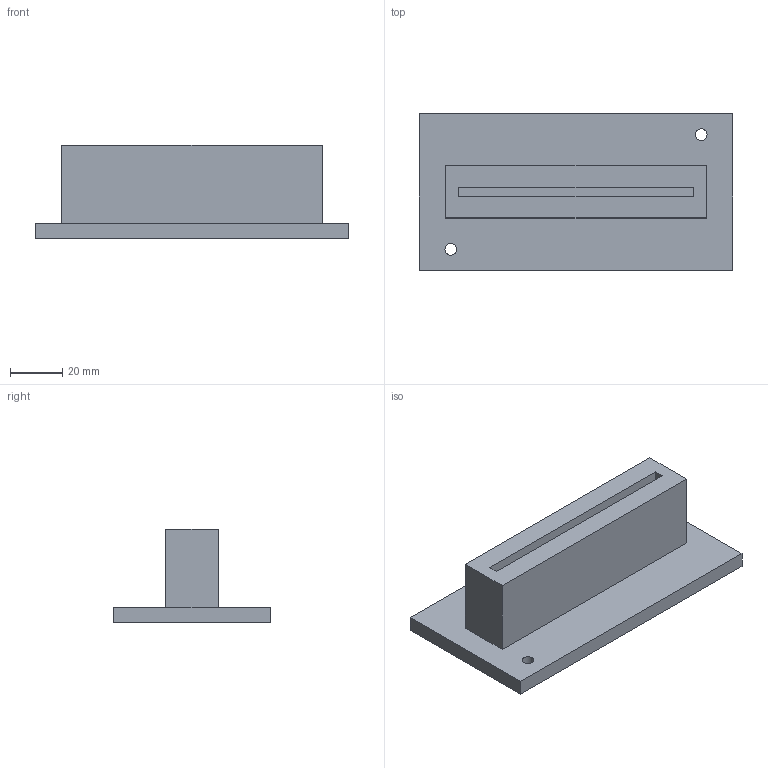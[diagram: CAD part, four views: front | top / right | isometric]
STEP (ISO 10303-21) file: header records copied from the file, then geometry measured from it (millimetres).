
FILE_DESCRIPTION(('Open CASCADE Model'),'2;1');
FILE_NAME('Open CASCADE Shape Model','2026-10-21T17:23:48',('Author'),( 'Open CASCADE'),'Open CASCADE STEP processor 7.9','Open CASCADE 7.9' ,'Unknown');
FILE_SCHEMA(('AUTOMOTIVE_DESIGN { 1 0 10303 214 1 1 1 1 }'));
Length unit declared in the file: millimetre
Products named in the file (1): Open CASCADE STEP translator 7.9 5
Bounding box: 120 x 60 x 36 mm (x, y, z)
Volume: 94261.1 mm3; surface area: 28920.4 mm2
Topology: 1 solids, 1 shells, 18 faces, 42 edges, 28 vertices
Faces by surface type: plane 16, cylinder 2
Full cylindrical faces by diameter (mm): 4.5 x2
Entity records: 1086 total; most frequent: CARTESIAN_POINT 197, DIRECTION 164, LINE 118, VECTOR 118, ORIENTED_EDGE 84, PCURVE 84, DEFINITIONAL_REPRESENTATION 84, EDGE_CURVE 42
